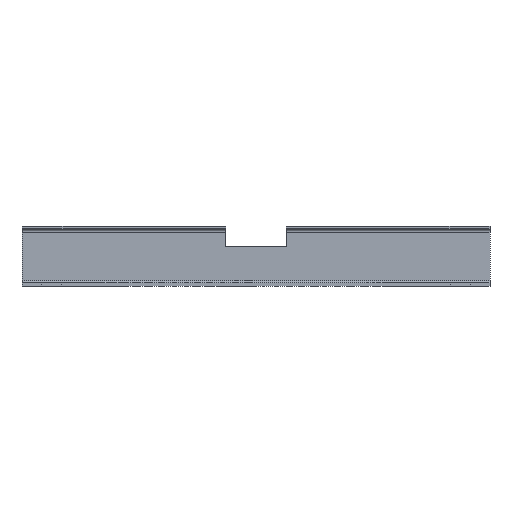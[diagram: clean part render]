
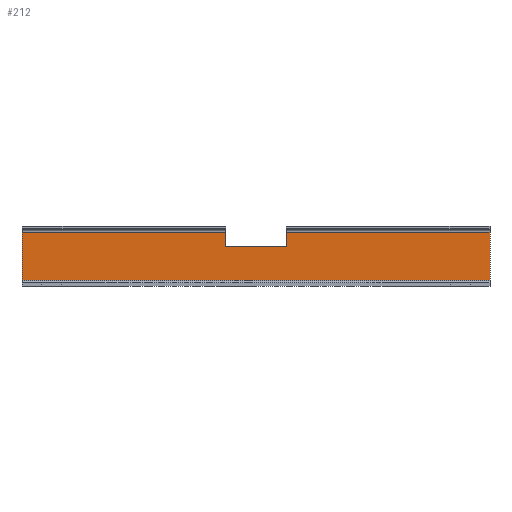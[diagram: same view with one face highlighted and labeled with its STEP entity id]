
A CAD part, front view. The second image highlights one B-rep face of the part: STEP entity #212.
In plain terms, the highlighted planar face has unit normal (0, -1, 0).
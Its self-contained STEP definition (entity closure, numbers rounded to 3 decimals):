
#17 = CARTESIAN_POINT ( 'NONE',  ( 30.5, -3., 30. ) ) ;
#19 = CARTESIAN_POINT ( 'NONE',  ( 234., -3., 24. ) ) ;
#39 = EDGE_CURVE ( 'NONE', #654, #798, #1283, .T. ) ;
#119 = EDGE_CURVE ( 'NONE', #654, #558, #979, .T. ) ;
#161 = DIRECTION ( 'NONE',  ( 0., 0., 1. ) ) ;
#194 = CARTESIAN_POINT ( 'NONE',  ( -234., -3., 30. ) ) ;
#198 = ORIENTED_EDGE ( 'NONE', *, *, #119, .F. ) ;
#202 = EDGE_CURVE ( 'NONE', #1084, #407, #448, .T. ) ;
#210 = DIRECTION ( 'NONE',  ( -1., 0., 0. ) ) ;
#212 = ADVANCED_FACE ( 'NONE', ( #472 ), #546, .F. ) ;
#218 = LINE ( 'NONE', #877, #1043 ) ;
#222 = DIRECTION ( 'NONE',  ( 0., 0., -1. ) ) ;
#227 = CARTESIAN_POINT ( 'NONE',  ( 234., -3., 30. ) ) ;
#352 = CARTESIAN_POINT ( 'NONE',  ( 234., -3., 9.5 ) ) ;
#369 = AXIS2_PLACEMENT_3D ( 'NONE', #227, #686, #1104 ) ;
#406 = DIRECTION ( 'NONE',  ( -1., 0., 0. ) ) ;
#407 = VERTEX_POINT ( 'NONE', #712 ) ;
#425 = LINE ( 'NONE', #1094, #740 ) ;
#448 = LINE ( 'NONE', #352, #554 ) ;
#459 = EDGE_LOOP ( 'NONE', ( #1008, #1316, #804, #485, #899, #198, #1279, #765 ) ) ;
#472 = FACE_OUTER_BOUND ( 'NONE', #459, .T. ) ;
#485 = ORIENTED_EDGE ( 'NONE', *, *, #939, .T. ) ;
#511 = VECTOR ( 'NONE', #161, 1000. ) ;
#520 = CARTESIAN_POINT ( 'NONE',  ( 234., -3., -24. ) ) ;
#546 = PLANE ( 'NONE',  #369 ) ;
#554 = VECTOR ( 'NONE', #1208, 1000. ) ;
#558 = VERTEX_POINT ( 'NONE', #520 ) ;
#561 = CARTESIAN_POINT ( 'NONE',  ( 30.5, -3., 9.5 ) ) ;
#564 = LINE ( 'NONE', #17, #1378 ) ;
#632 = VERTEX_POINT ( 'NONE', #908 ) ;
#654 = VERTEX_POINT ( 'NONE', #19 ) ;
#686 = DIRECTION ( 'NONE',  ( 0., 1., 0. ) ) ;
#712 = CARTESIAN_POINT ( 'NONE',  ( -30.5, -3., 9.5 ) ) ;
#740 = VECTOR ( 'NONE', #1085, 1000. ) ;
#750 = CARTESIAN_POINT ( 'NONE',  ( -234., -3., 24. ) ) ;
#765 = ORIENTED_EDGE ( 'NONE', *, *, #1072, .T. ) ;
#777 = DIRECTION ( 'NONE',  ( 0., 0., -1. ) ) ;
#789 = CARTESIAN_POINT ( 'NONE',  ( -234., -3., -24. ) ) ;
#798 = VERTEX_POINT ( 'NONE', #1060 ) ;
#800 = EDGE_CURVE ( 'NONE', #407, #632, #1254, .T. ) ;
#804 = ORIENTED_EDGE ( 'NONE', *, *, #964, .T. ) ;
#859 = VECTOR ( 'NONE', #222, 1000. ) ;
#877 = CARTESIAN_POINT ( 'NONE',  ( 234., -3., -24. ) ) ;
#899 = ORIENTED_EDGE ( 'NONE', *, *, #1082, .F. ) ;
#908 = CARTESIAN_POINT ( 'NONE',  ( -30.5, -3., 24. ) ) ;
#932 = VERTEX_POINT ( 'NONE', #750 ) ;
#939 = EDGE_CURVE ( 'NONE', #932, #1059, #1308, .T. ) ;
#940 = CARTESIAN_POINT ( 'NONE',  ( -30.5, -3., 30. ) ) ;
#964 = EDGE_CURVE ( 'NONE', #632, #932, #425, .T. ) ;
#965 = CARTESIAN_POINT ( 'NONE',  ( 234., -3., 30. ) ) ;
#979 = LINE ( 'NONE', #965, #1173 ) ;
#1008 = ORIENTED_EDGE ( 'NONE', *, *, #202, .T. ) ;
#1043 = VECTOR ( 'NONE', #210, 1000. ) ;
#1059 = VERTEX_POINT ( 'NONE', #789 ) ;
#1060 = CARTESIAN_POINT ( 'NONE',  ( 30.5, -3., 24. ) ) ;
#1072 = EDGE_CURVE ( 'NONE', #798, #1084, #564, .T. ) ;
#1082 = EDGE_CURVE ( 'NONE', #558, #1059, #218, .T. ) ;
#1084 = VERTEX_POINT ( 'NONE', #561 ) ;
#1085 = DIRECTION ( 'NONE',  ( -1., 0., 0. ) ) ;
#1094 = CARTESIAN_POINT ( 'NONE',  ( 234., -3., 24. ) ) ;
#1104 = DIRECTION ( 'NONE',  ( 0., 0., 1. ) ) ;
#1173 = VECTOR ( 'NONE', #1306, 1000. ) ;
#1194 = CARTESIAN_POINT ( 'NONE',  ( 234., -3., 24. ) ) ;
#1208 = DIRECTION ( 'NONE',  ( -1., 0., 0. ) ) ;
#1242 = VECTOR ( 'NONE', #406, 1000. ) ;
#1254 = LINE ( 'NONE', #940, #511 ) ;
#1279 = ORIENTED_EDGE ( 'NONE', *, *, #39, .T. ) ;
#1283 = LINE ( 'NONE', #1194, #1242 ) ;
#1306 = DIRECTION ( 'NONE',  ( 0., 0., -1. ) ) ;
#1308 = LINE ( 'NONE', #194, #859 ) ;
#1316 = ORIENTED_EDGE ( 'NONE', *, *, #800, .T. ) ;
#1378 = VECTOR ( 'NONE', #777, 1000. ) ;
